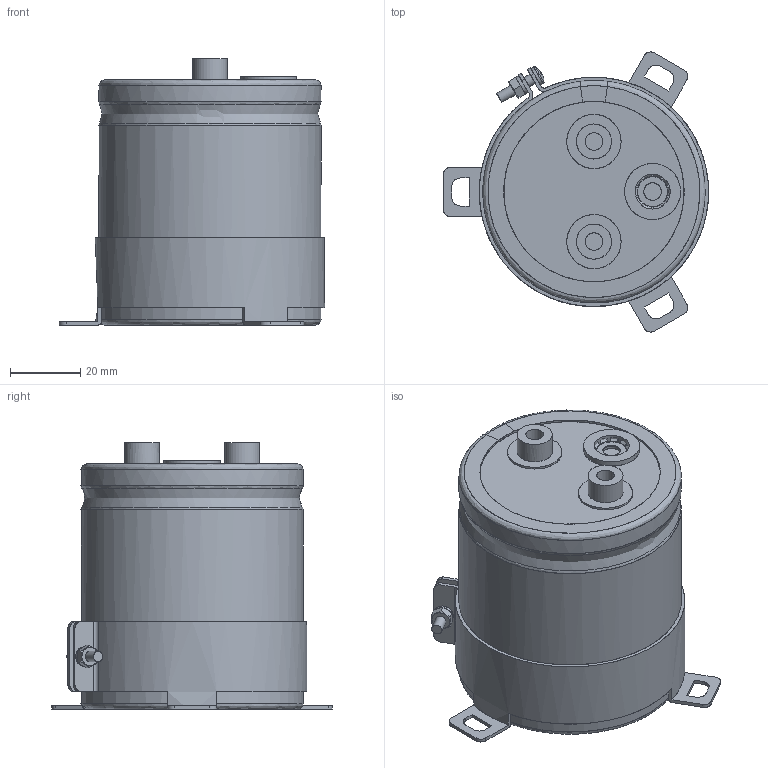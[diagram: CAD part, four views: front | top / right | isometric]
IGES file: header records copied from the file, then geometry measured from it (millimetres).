
Start section: JAMA-IS VERSION  1.0
Bounding box: 75.75 x 80.01 x 76 mm (x, y, z)
Surface area: 63157.7 mm2 (no closed solid volume)
Topology: 0 solids, 0 shells, 259 faces, 4436 edges, 4409 vertices
Faces by surface type: bspline 259
